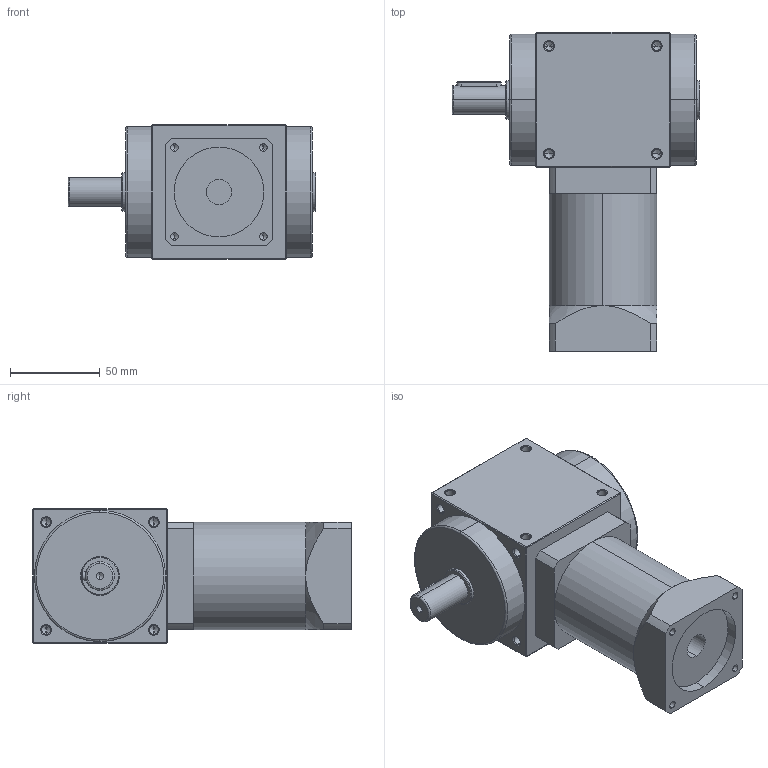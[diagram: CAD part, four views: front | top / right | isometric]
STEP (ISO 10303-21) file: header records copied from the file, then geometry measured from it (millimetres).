
FILE_DESCRIPTION (( 'STEP AP214' ), '1' );
FILE_NAME ('AT075-FL1-L2--14-50-70-M5.STEP', '2020-04-09T08:48:18', ( 'User' ), ( 'Far123' ), 'SwSTEP 2.0', 'SolidWorks 2015', '' );
FILE_SCHEMA (( 'AUTOMOTIVE_DESIGN' ));
Length unit declared in the file: millimetre
Products named in the file (1): AT075-FL1-L2--14-50-70-M5
Bounding box: 138 x 177.5 x 75 mm (x, y, z)
Volume: 846006.5 mm3; surface area: 70057.3 mm2
Topology: 1 solids, 1 shells, 273 faces, 678 edges, 367 vertices
Faces by surface type: cylinder 116, cone 100, plane 51, torus 6
Entity records: 8766 total; most frequent: CARTESIAN_POINT 1787, DIRECTION 1266, ORIENTED_EDGE 1256, EDGE_CURVE 628, AXIS2_PLACEMENT_3D 486, VERTEX_POINT 367, EDGE_LOOP 307, LINE 294
